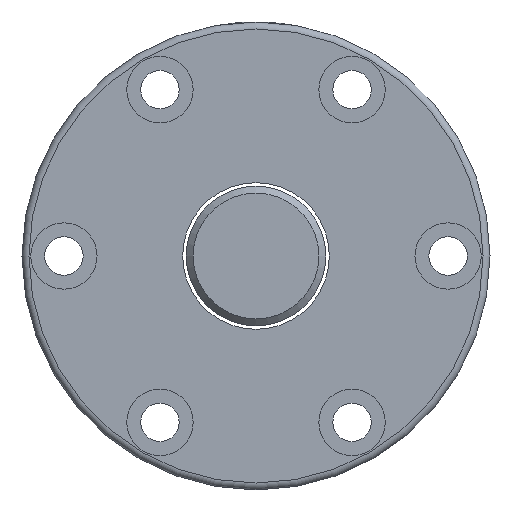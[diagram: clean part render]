
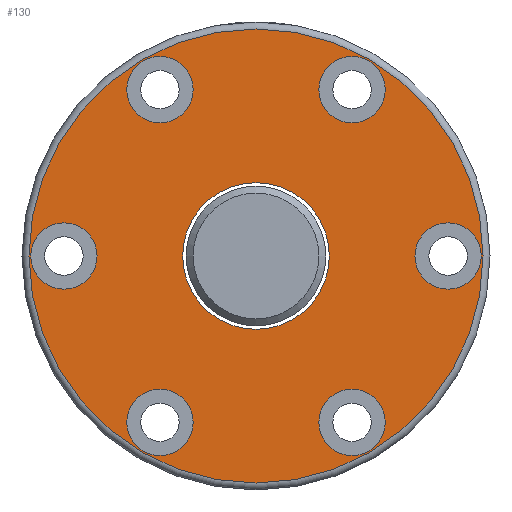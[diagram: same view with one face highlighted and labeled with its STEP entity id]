
A CAD part, left-side view. The second image highlights one B-rep face of the part: STEP entity #130.
In plain terms, the highlighted planar face has unit normal (-1, 0, 0).
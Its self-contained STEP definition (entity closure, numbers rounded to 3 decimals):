
#5 = EDGE_LOOP ( 'NONE', ( #1331 ) ) ;
#39 = EDGE_CURVE ( 'NONE', #2610, #2610, #2197, .T. ) ;
#103 = CARTESIAN_POINT ( 'NONE',  ( -57., -9., -23.816 ) ) ;
#130 = ADVANCED_FACE ( 'NONE', ( #842, #329, #1021, #604, #1936, #2203, #2857, #1056 ), #791, .F. ) ;
#207 = ORIENTED_EDGE ( 'NONE', *, *, #2481, .T. ) ;
#248 = CARTESIAN_POINT ( 'NONE',  ( -57., 27.5, 0. ) ) ;
#316 = DIRECTION ( 'NONE',  ( 0., 0.5, 0.866 ) ) ;
#329 = FACE_BOUND ( 'NONE', #899, .T. ) ;
#361 = VERTEX_POINT ( 'NONE', #573 ) ;
#365 = DIRECTION ( 'NONE',  ( 0., -0.5, -0.866 ) ) ;
#373 = CARTESIAN_POINT ( 'NONE',  ( -57., -25.125, -4.114 ) ) ;
#392 = ORIENTED_EDGE ( 'NONE', *, *, #2084, .T. ) ;
#412 = EDGE_LOOP ( 'NONE', ( #1555 ) ) ;
#469 = DIRECTION ( 'NONE',  ( 1., 0., 0. ) ) ;
#573 = CARTESIAN_POINT ( 'NONE',  ( -57., 9., 23.816 ) ) ;
#579 = DIRECTION ( 'NONE',  ( 1., 0., 0. ) ) ;
#604 = FACE_BOUND ( 'NONE', #1315, .T. ) ;
#658 = AXIS2_PLACEMENT_3D ( 'NONE', #1481, #804, #2617 ) ;
#791 = PLANE ( 'NONE',  #658 ) ;
#804 = DIRECTION ( 'NONE',  ( 1., 0., 0. ) ) ;
#805 = CARTESIAN_POINT ( 'NONE',  ( -57., 13.75, 23.816 ) ) ;
#812 = CARTESIAN_POINT ( 'NONE',  ( -57., 16.125, -19.702 ) ) ;
#816 = CARTESIAN_POINT ( 'NONE',  ( -57., 0., 0. ) ) ;
#842 = FACE_BOUND ( 'NONE', #1123, .T. ) ;
#899 = EDGE_LOOP ( 'NONE', ( #2658 ) ) ;
#902 = AXIS2_PLACEMENT_3D ( 'NONE', #2001, #2428, #365 ) ;
#906 = DIRECTION ( 'NONE',  ( 0., -0.5, 0.866 ) ) ;
#1001 = CARTESIAN_POINT ( 'NONE',  ( -57., -16.125, 19.702 ) ) ;
#1008 = DIRECTION ( 'NONE',  ( 0., -1., 0. ) ) ;
#1021 = FACE_BOUND ( 'NONE', #2433, .T. ) ;
#1056 = FACE_BOUND ( 'NONE', #2221, .T. ) ;
#1094 = EDGE_CURVE ( 'NONE', #1251, #1251, #1776, .T. ) ;
#1113 = CIRCLE ( 'NONE', #2851, 10.5 ) ;
#1123 = EDGE_LOOP ( 'NONE', ( #2915 ) ) ;
#1164 = CARTESIAN_POINT ( 'NONE',  ( -57., 0., 0. ) ) ;
#1234 = CARTESIAN_POINT ( 'NONE',  ( -57., 13.75, -23.816 ) ) ;
#1251 = VERTEX_POINT ( 'NONE', #1267 ) ;
#1262 = AXIS2_PLACEMENT_3D ( 'NONE', #1234, #1962, #316 ) ;
#1267 = CARTESIAN_POINT ( 'NONE',  ( -57., 32.5, 0. ) ) ;
#1281 = AXIS2_PLACEMENT_3D ( 'NONE', #2098, #1419, #2368 ) ;
#1285 = ORIENTED_EDGE ( 'NONE', *, *, #2394, .T. ) ;
#1293 = VERTEX_POINT ( 'NONE', #2624 ) ;
#1304 = VERTEX_POINT ( 'NONE', #103 ) ;
#1315 = EDGE_LOOP ( 'NONE', ( #207 ) ) ;
#1331 = ORIENTED_EDGE ( 'NONE', *, *, #2924, .T. ) ;
#1419 = DIRECTION ( 'NONE',  ( 1., 0., 0. ) ) ;
#1446 = DIRECTION ( 'NONE',  ( 0., -1., 0. ) ) ;
#1481 = CARTESIAN_POINT ( 'NONE',  ( -57., 0., 0. ) ) ;
#1486 = CARTESIAN_POINT ( 'NONE',  ( -57., -10.5, 0. ) ) ;
#1555 = ORIENTED_EDGE ( 'NONE', *, *, #1094, .F. ) ;
#1641 = AXIS2_PLACEMENT_3D ( 'NONE', #805, #2180, #1008 ) ;
#1683 = DIRECTION ( 'NONE',  ( 1., 0., 0. ) ) ;
#1776 = CIRCLE ( 'NONE', #2170, 32.5 ) ;
#1788 = CIRCLE ( 'NONE', #1262, 4.75 ) ;
#1915 = CIRCLE ( 'NONE', #2970, 4.75 ) ;
#1936 = FACE_BOUND ( 'NONE', #2702, .T. ) ;
#1962 = DIRECTION ( 'NONE',  ( 1., 0., 0. ) ) ;
#1968 = VERTEX_POINT ( 'NONE', #1486 ) ;
#1982 = VERTEX_POINT ( 'NONE', #812 ) ;
#2001 = CARTESIAN_POINT ( 'NONE',  ( -57., -13.75, 23.816 ) ) ;
#2025 = CIRCLE ( 'NONE', #2413, 4.75 ) ;
#2084 = EDGE_CURVE ( 'NONE', #1982, #1982, #1788, .T. ) ;
#2098 = CARTESIAN_POINT ( 'NONE',  ( -57., -13.75, -23.816 ) ) ;
#2170 = AXIS2_PLACEMENT_3D ( 'NONE', #1164, #469, #2771 ) ;
#2180 = DIRECTION ( 'NONE',  ( 1., 0., 0. ) ) ;
#2197 = CIRCLE ( 'NONE', #902, 4.75 ) ;
#2203 = FACE_BOUND ( 'NONE', #5, .T. ) ;
#2221 = EDGE_LOOP ( 'NONE', ( #1285 ) ) ;
#2264 = ORIENTED_EDGE ( 'NONE', *, *, #2301, .T. ) ;
#2290 = CIRCLE ( 'NONE', #1281, 4.75 ) ;
#2301 = EDGE_CURVE ( 'NONE', #361, #361, #2559, .T. ) ;
#2368 = DIRECTION ( 'NONE',  ( 0., 1., 0. ) ) ;
#2387 = EDGE_CURVE ( 'NONE', #2436, #2436, #2025, .T. ) ;
#2394 = EDGE_CURVE ( 'NONE', #1968, #1968, #1113, .T. ) ;
#2413 = AXIS2_PLACEMENT_3D ( 'NONE', #2642, #579, #2883 ) ;
#2428 = DIRECTION ( 'NONE',  ( 1., 0., 0. ) ) ;
#2429 = DIRECTION ( 'NONE',  ( 1., 0., 0. ) ) ;
#2433 = EDGE_LOOP ( 'NONE', ( #2264 ) ) ;
#2436 = VERTEX_POINT ( 'NONE', #373 ) ;
#2481 = EDGE_CURVE ( 'NONE', #1293, #1293, #1915, .T. ) ;
#2559 = CIRCLE ( 'NONE', #1641, 4.75 ) ;
#2610 = VERTEX_POINT ( 'NONE', #1001 ) ;
#2617 = DIRECTION ( 'NONE',  ( 0., 1., 0. ) ) ;
#2624 = CARTESIAN_POINT ( 'NONE',  ( -57., 25.125, 4.114 ) ) ;
#2642 = CARTESIAN_POINT ( 'NONE',  ( -57., -27.5, 0. ) ) ;
#2658 = ORIENTED_EDGE ( 'NONE', *, *, #39, .T. ) ;
#2702 = EDGE_LOOP ( 'NONE', ( #392 ) ) ;
#2771 = DIRECTION ( 'NONE',  ( 0., 1., 0. ) ) ;
#2851 = AXIS2_PLACEMENT_3D ( 'NONE', #816, #1683, #1446 ) ;
#2857 = FACE_OUTER_BOUND ( 'NONE', #412, .T. ) ;
#2883 = DIRECTION ( 'NONE',  ( 0., 0.5, -0.866 ) ) ;
#2915 = ORIENTED_EDGE ( 'NONE', *, *, #2387, .T. ) ;
#2924 = EDGE_CURVE ( 'NONE', #1304, #1304, #2290, .T. ) ;
#2970 = AXIS2_PLACEMENT_3D ( 'NONE', #248, #2429, #906 ) ;
